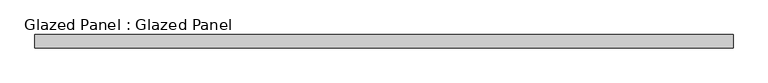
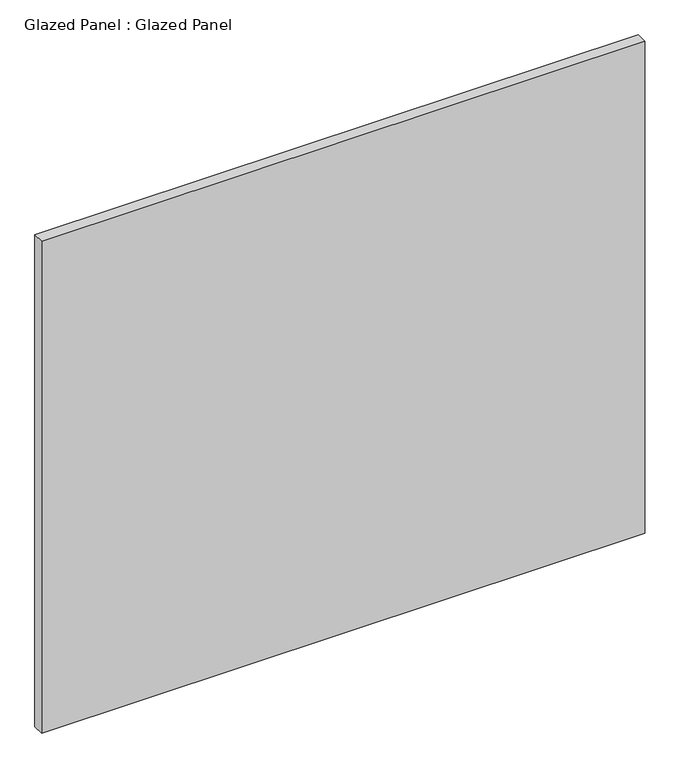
"""IFC4 building model written with IfcOpenShell, lengths in millimetres: plate geometry, Glazed Panel : Glazed Panel."""

from ifc_helpers import new_model, si_unit, origin, origin_with_axes, place, context, project, spatial, polyline, outline, extrude, source, transform, mapped, element, save


def glazed_panel_glazed_panel_5e909d7d(model_context):
    return source(origin(), model_context, "Body", "SweptSolid", [
        extrude(outline(polyline([(670.71875, 38.1), (-670.71875, 38.1), (-670.71875, 63.5), (670.71875, 63.5), (670.71875, 38.1)])), origin_with_axes(), (0.0, 0.0, 1.0), 1155.7),
    ])


if __name__ == "__main__":
    model = new_model("IFC4")
    model_context = context("Model", 3, world=origin())
    ifc_project = project(units=[si_unit("LENGTHUNIT", "METRE", prefix="MILLI")], contexts=[model_context])
    site = spatial("IfcSite", under=ifc_project)
    building = spatial("IfcBuilding", under=site)
    placement = place(None, origin())
    glazed_panel_glazed_panel_shape = glazed_panel_glazed_panel_5e909d7d(model_context)
    element("IfcPlate", 1, ObjectType="Glazed Panel : Glazed Panel", at=placement, inside=building, context=model_context, shape_type="MappedRepresentation", body=[
        mapped(glazed_panel_glazed_panel_shape, transform((0.0, 0.0, 0.0), x_axis=(1.0, 0.0, 0.0), y_axis=(0.0, 1.0, 0.0), z_axis=(0.0, 0.0, 1.0))),
    ])
    save(model, "model.ifc")
